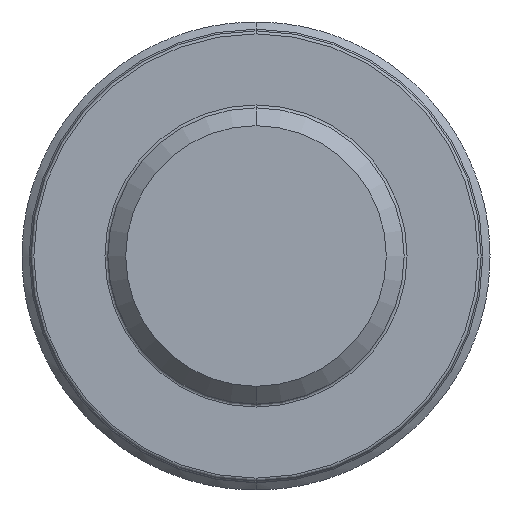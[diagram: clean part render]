
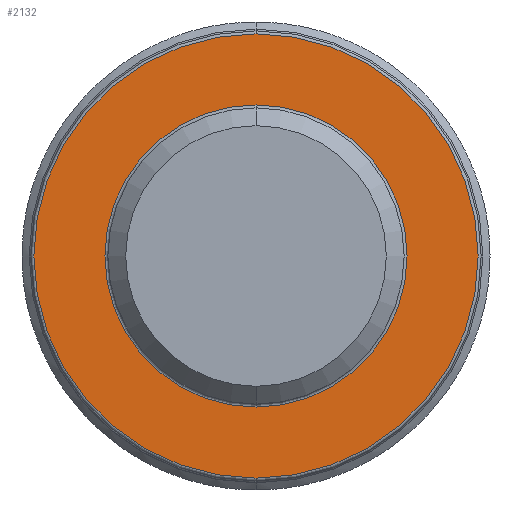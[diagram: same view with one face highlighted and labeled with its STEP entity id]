
A CAD part, front view. The second image highlights one B-rep face of the part: STEP entity #2132.
In plain terms, the highlighted planar face has unit normal (0, -1, 0).
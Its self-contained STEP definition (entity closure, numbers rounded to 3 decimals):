
#61 = CIRCLE ( 'NONE', #1285, 5.1 ) ;
#575 = AXIS2_PLACEMENT_3D ( 'NONE', #7418, #6183, #1583 ) ;
#984 = EDGE_CURVE ( 'NONE', #1911, #3714, #6084, .T. ) ;
#1017 = DIRECTION ( 'NONE',  ( 0., 1., 0. ) ) ;
#1034 = EDGE_LOOP ( 'NONE', ( #2203, #1844 ) ) ;
#1285 = AXIS2_PLACEMENT_3D ( 'NONE', #8115, #1017, #2945 ) ;
#1583 = DIRECTION ( 'NONE',  ( 0., 0., -1. ) ) ;
#1844 = ORIENTED_EDGE ( 'NONE', *, *, #4145, .T. ) ;
#1911 = VERTEX_POINT ( 'NONE', #6192 ) ;
#2005 = AXIS2_PLACEMENT_3D ( 'NONE', #7872, #3987, #7830 ) ;
#2132 = ADVANCED_FACE ( 'NONE', ( #6098, #2263 ), #7368, .T. ) ;
#2175 = DIRECTION ( 'NONE',  ( 0., 0., -1. ) ) ;
#2203 = ORIENTED_EDGE ( 'NONE', *, *, #984, .T. ) ;
#2263 = FACE_OUTER_BOUND ( 'NONE', #1034, .T. ) ;
#2305 = CARTESIAN_POINT ( 'NONE',  ( 0., -10., 0. ) ) ;
#2691 = CARTESIAN_POINT ( 'NONE',  ( 0., -10., -5.1 ) ) ;
#2781 = EDGE_CURVE ( 'NONE', #6690, #7900, #7676, .T. ) ;
#2945 = DIRECTION ( 'NONE',  ( 0., 0., -1. ) ) ;
#3652 = ORIENTED_EDGE ( 'NONE', *, *, #4537, .T. ) ;
#3714 = VERTEX_POINT ( 'NONE', #7561 ) ;
#3743 = AXIS2_PLACEMENT_3D ( 'NONE', #2305, #5456, #2175 ) ;
#3922 = AXIS2_PLACEMENT_3D ( 'NONE', #4463, #8316, #6999 ) ;
#3987 = DIRECTION ( 'NONE',  ( 0., 1., 0. ) ) ;
#4145 = EDGE_CURVE ( 'NONE', #3714, #1911, #7531, .T. ) ;
#4463 = CARTESIAN_POINT ( 'NONE',  ( 0., -10., 0. ) ) ;
#4537 = EDGE_CURVE ( 'NONE', #7900, #6690, #61, .T. ) ;
#5456 = DIRECTION ( 'NONE',  ( 0., -1., 0. ) ) ;
#6084 = CIRCLE ( 'NONE', #3922, 7.5 ) ;
#6098 = FACE_BOUND ( 'NONE', #7999, .T. ) ;
#6183 = DIRECTION ( 'NONE',  ( 0., -1., 0. ) ) ;
#6192 = CARTESIAN_POINT ( 'NONE',  ( 0., -10., -7.5 ) ) ;
#6271 = CARTESIAN_POINT ( 'NONE',  ( 0., -10., 5.1 ) ) ;
#6627 = ORIENTED_EDGE ( 'NONE', *, *, #2781, .T. ) ;
#6690 = VERTEX_POINT ( 'NONE', #6271 ) ;
#6999 = DIRECTION ( 'NONE',  ( 0., 0., -1. ) ) ;
#7368 = PLANE ( 'NONE',  #575 ) ;
#7418 = CARTESIAN_POINT ( 'NONE',  ( 5., -10., 0. ) ) ;
#7531 = CIRCLE ( 'NONE', #3743, 7.5 ) ;
#7561 = CARTESIAN_POINT ( 'NONE',  ( 0., -10., 7.5 ) ) ;
#7676 = CIRCLE ( 'NONE', #2005, 5.1 ) ;
#7830 = DIRECTION ( 'NONE',  ( 0., 0., -1. ) ) ;
#7872 = CARTESIAN_POINT ( 'NONE',  ( 0., -10., 0. ) ) ;
#7900 = VERTEX_POINT ( 'NONE', #2691 ) ;
#7999 = EDGE_LOOP ( 'NONE', ( #3652, #6627 ) ) ;
#8115 = CARTESIAN_POINT ( 'NONE',  ( 0., -10., 0. ) ) ;
#8316 = DIRECTION ( 'NONE',  ( 0., -1., 0. ) ) ;
